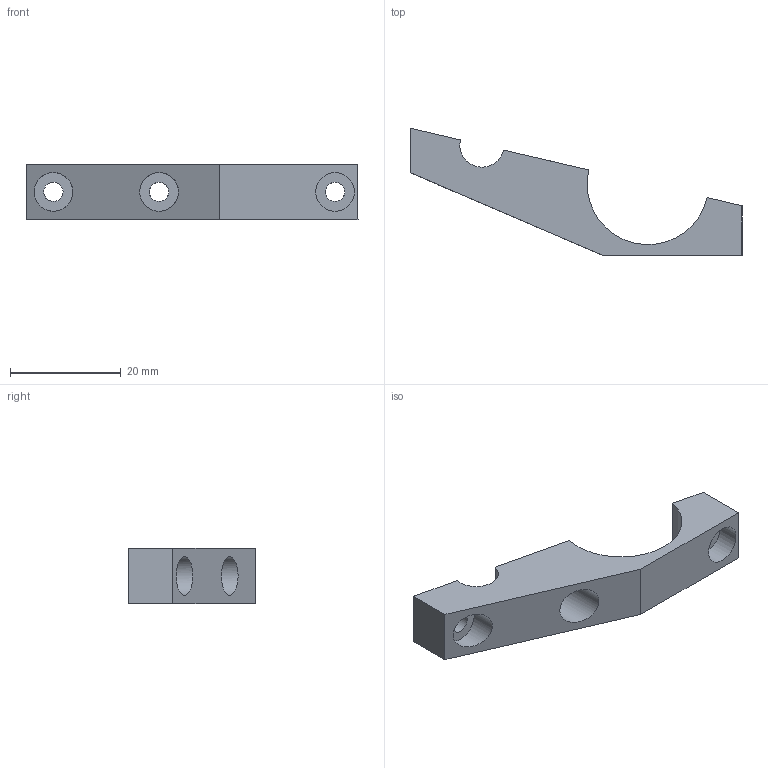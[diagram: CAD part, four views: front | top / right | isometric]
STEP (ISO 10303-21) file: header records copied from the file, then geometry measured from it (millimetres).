
FILE_DESCRIPTION(/* description */ (''),/* implementation_level */ '2;1');
FILE_NAME(/* name */ 'Z - BC Top Clamp v1.step',/* time_stamp */ '2023-03-23T06:43:49-06:00',/* author */ (''),/* organization */ (''),/* preprocessor_version */ 'ST-DEVELOPER v19.2',/* originating_system */ 'Autodesk Translation Framework v11.17.0.187',/* authorisation */ '');
FILE_SCHEMA (('AUTOMOTIVE_DESIGN { 1 0 10303 214 3 1 1 }'));
Length unit declared in the file: millimetre
Products named in the file (2): Z - BC Top Clamp; BC Top 2
Assembly tree (1 placements, depth 2):
  Z - BC Top Clamp
    BC Top 2
Bounding box: 60 x 23.03 x 10 mm (x, y, z)
Volume: 4135.7 mm3; surface area: 2994.2 mm2
Topology: 1 solids, 1 shells, 20 faces, 45 edges, 30 vertices
Faces by surface type: plane 12, cylinder 8
Full cylindrical faces by diameter (mm): 3.5 x3, 7 x3
Entity records: 637 total; most frequent: DIRECTION 107, CARTESIAN_POINT 98, ORIENTED_EDGE 90, EDGE_CURVE 45, AXIS2_PLACEMENT_3D 39, VERTEX_POINT 30, LINE 29, VECTOR 29
